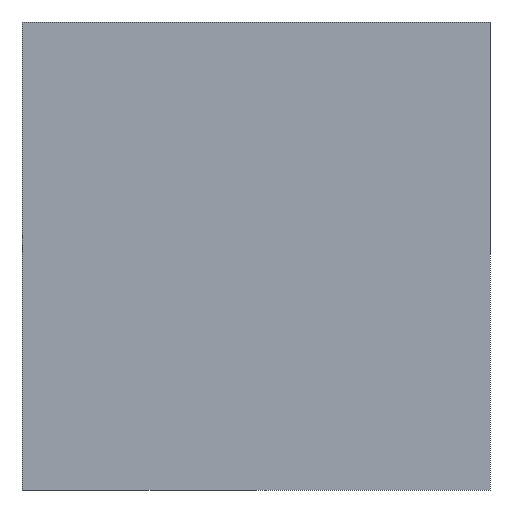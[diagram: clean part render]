
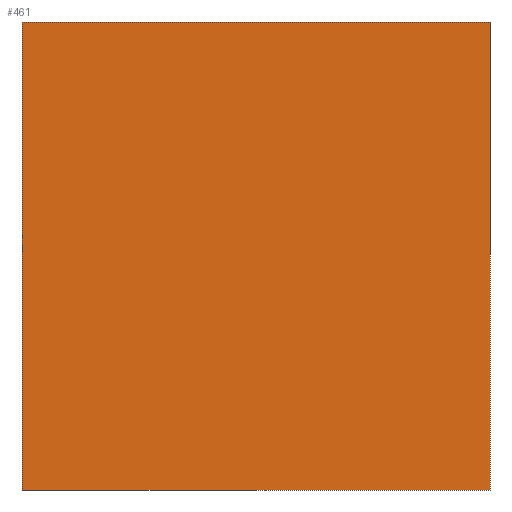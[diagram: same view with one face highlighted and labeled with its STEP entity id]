
A CAD part, left-side view. The second image highlights one B-rep face of the part: STEP entity #461.
In plain terms, the highlighted planar face has unit normal (-1, 0, 0).
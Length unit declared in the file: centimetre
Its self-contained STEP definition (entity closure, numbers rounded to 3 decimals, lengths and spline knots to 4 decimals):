
#19 = CARTESIAN_POINT ( 'NONE',  ( 0., 0., 1000. ) ) ;
#58 = DIRECTION ( 'NONE',  ( 0., 0., -1. ) ) ;
#75 = DIRECTION ( 'NONE',  ( 0., 0., -1. ) ) ;
#91 = EDGE_CURVE ( 'NONE', #143, #709, #472, .T. ) ;
#124 = VECTOR ( 'NONE', #486, 100. ) ;
#140 = LINE ( 'NONE', #405, #480 ) ;
#143 = VERTEX_POINT ( 'NONE', #610 ) ;
#150 = DIRECTION ( 'NONE',  ( 0., -1., 0. ) ) ;
#170 = VECTOR ( 'NONE', #58, 100. ) ;
#199 = VERTEX_POINT ( 'NONE', #19 ) ;
#321 = DIRECTION ( 'NONE',  ( 0., 0., -1. ) ) ;
#364 = EDGE_CURVE ( 'NONE', #781, #199, #442, .T. ) ;
#367 = ORIENTED_EDGE ( 'NONE', *, *, #364, .F. ) ;
#389 = DIRECTION ( 'NONE',  ( 1., 0., 0. ) ) ;
#395 = CARTESIAN_POINT ( 'NONE',  ( 0., 1000., 1000. ) ) ;
#405 = CARTESIAN_POINT ( 'NONE',  ( 0., 1000., 1000. ) ) ;
#408 = ORIENTED_EDGE ( 'NONE', *, *, #447, .F. ) ;
#442 = LINE ( 'NONE', #713, #124 ) ;
#447 = EDGE_CURVE ( 'NONE', #199, #709, #653, .T. ) ;
#461 = ADVANCED_FACE ( 'NONE', ( #594 ), #859, .F. ) ;
#472 = LINE ( 'NONE', #603, #696 ) ;
#480 = VECTOR ( 'NONE', #75, 100. ) ;
#486 = DIRECTION ( 'NONE',  ( 0., -1., 0. ) ) ;
#496 = AXIS2_PLACEMENT_3D ( 'NONE', #395, #389, #321 ) ;
#547 = ORIENTED_EDGE ( 'NONE', *, *, #91, .T. ) ;
#586 = EDGE_CURVE ( 'NONE', #781, #143, #140, .T. ) ;
#594 = FACE_OUTER_BOUND ( 'NONE', #640, .T. ) ;
#603 = CARTESIAN_POINT ( 'NONE',  ( 0., 1000., 0. ) ) ;
#605 = CARTESIAN_POINT ( 'NONE',  ( 0., 0., 0. ) ) ;
#610 = CARTESIAN_POINT ( 'NONE',  ( 0., 1000., 0. ) ) ;
#640 = EDGE_LOOP ( 'NONE', ( #547, #408, #367, #643 ) ) ;
#643 = ORIENTED_EDGE ( 'NONE', *, *, #586, .T. ) ;
#653 = LINE ( 'NONE', #662, #170 ) ;
#662 = CARTESIAN_POINT ( 'NONE',  ( 0., 0., 1000. ) ) ;
#696 = VECTOR ( 'NONE', #150, 100. ) ;
#709 = VERTEX_POINT ( 'NONE', #605 ) ;
#713 = CARTESIAN_POINT ( 'NONE',  ( 0., 1000., 1000. ) ) ;
#772 = CARTESIAN_POINT ( 'NONE',  ( 0., 1000., 1000. ) ) ;
#781 = VERTEX_POINT ( 'NONE', #772 ) ;
#859 = PLANE ( 'NONE',  #496 ) ;
